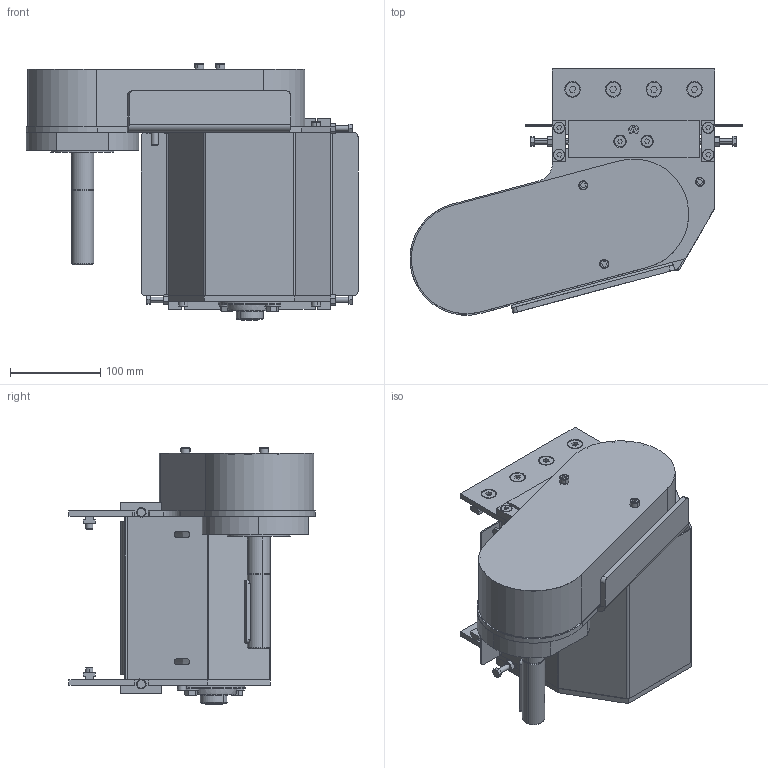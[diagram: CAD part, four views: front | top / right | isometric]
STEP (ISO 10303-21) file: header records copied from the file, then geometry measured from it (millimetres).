
FILE_DESCRIPTION (( 'STEP AP203' ), '1' );
FILE_NAME ('084.050.KCRS.49.150.STEP', '2019-07-29T13:58:59', ( '' ), ( '' ), 'SwSTEP 2.0', 'SolidWorks 2018', '' );
FILE_SCHEMA (( 'CONFIG_CONTROL_DESIGN' ));
Length unit declared in the file: millimetre
Products named in the file (38): 084.307.006; 084.812.003; VITI TSEI UNI 5933_M8x20 UNI 5933; 084.050.KCRS.49.150; RONDELLE UNI 6592_8.4x17 UNI 6592; 084.817.005_Default<A macchina>; VITI TCEI UNI 5931_M6x70 UNI 5931; VITI TSEI UNI 5933_M6x16 UNI 5933; 084.817.007; 084.817.008; 084.802.020; VITI TE UNI 5739_M8x30 UNI 5739; CUSCINETTI A SFERE_6004-2RS; 084.821.002; 084.810.003; 084.802.004-1; circlip for shafts normal_din_PreviewCfg; SBPFL 205; 084.802.012; 084.802.011; 084.809.006_Default<A macchina>; VITI TE UNI 5739_M8x12 UNI 5739; VITI TCEI UNI 5931_M6x20 UNI 5931; 084.821.009; VITI TE UNI 5739_M6x50 UNI 5739; 084.817.006; 084.814.007; 084.802.052; 084.802.050-1; 084.813.008; 084.802.021; 084.810.009; DADI ESAGONALI NORMALI UNI 5588_M6 UNI 5588; CHIAVETTE_A 8x7x70 UNI 6604-69; CUSCINETTI A SFERE_608-2RS; 084.802.003-1; CHIAVETTE_A 8x7x25 UNI 6604-69; 084.810.007
Assembly tree (90 placements, depth 3):
  084.050.KCRS.49.150
    084.802.052  x2
    084.802.012  x2
    084.307.006  x2
    084.809.006_Default<A macchina>
    084.810.007
      084.810.009
      CUSCINETTI A SFERE_608-2RS  x3
      circlip for shafts normal_din_PreviewCfg
    084.814.007
    084.813.008
    084.821.002  x2
    084.802.021
    084.802.020
    084.802.003-1
    084.802.004-1  x4
    084.802.011
    CHIAVETTE_A 8x7x70 UNI 6604-69
    CHIAVETTE_A 8x7x25 UNI 6604-69  x2
    CUSCINETTI A SFERE_6004-2RS  x4
    SBPFL 205
    VITI TCEI UNI 5931_M6x20 UNI 5931  x4
    VITI TE UNI 5739_M6x50 UNI 5739  x4
    DADI ESAGONALI NORMALI UNI 5588_M6 UNI 5588  x4
    VITI TCEI UNI 5931_M6x70 UNI 5931  x2
    RONDELLE UNI 6592_8.4x17 UNI 6592  x4
    VITI TE UNI 5739_M8x12 UNI 5739  x4
    VITI TSEI UNI 5933_M6x16 UNI 5933  x12
    VITI TSEI UNI 5933_M8x20 UNI 5933  x8
    VITI TE UNI 5739_M8x30 UNI 5739  x4
    084.810.003  x2
    084.817.006
    084.817.008  x2
    084.817.007  x2
    084.817.005_Default<A macchina>
    084.812.003
    084.802.050-1
    084.821.009
Bounding box: 367.51 x 272.33 x 284 mm (x, y, z)
Volume: 2464370.7 mm3; surface area: 1216358.3 mm2
Topology: 149 solids, 149 shells, 2985 faces, 7126 edges, 4564 vertices
Faces by surface type: plane 1440, cylinder 996, cone 417, torus 112, sphere 20
Entity records: 58918 total; most frequent: CARTESIAN_POINT 9812, DIRECTION 9616, ORIENTED_EDGE 8612, EDGE_CURVE 4306, AXIS2_PLACEMENT_3D 3542, VERTEX_POINT 2794, VECTOR 2532, LINE 2532
